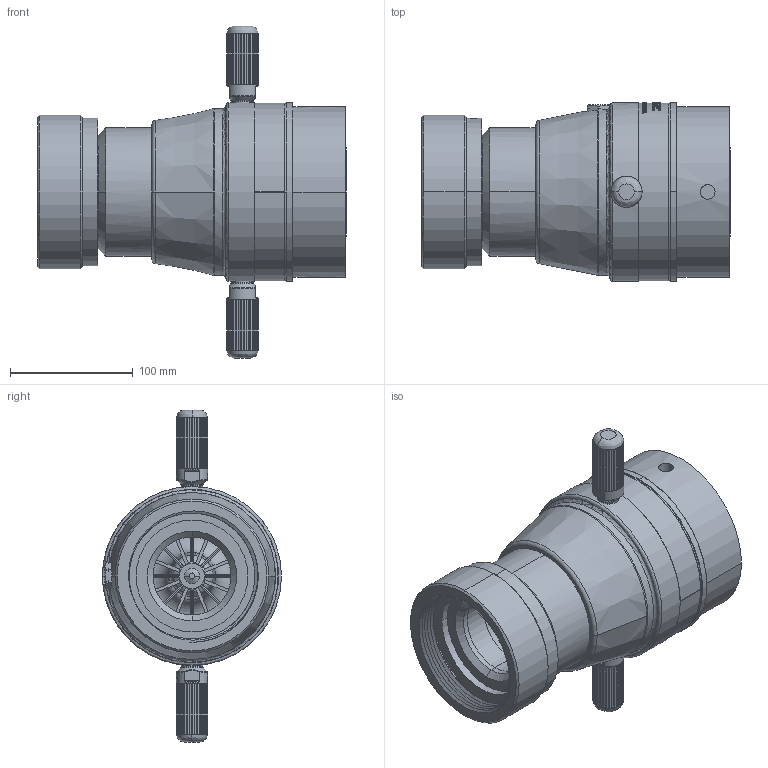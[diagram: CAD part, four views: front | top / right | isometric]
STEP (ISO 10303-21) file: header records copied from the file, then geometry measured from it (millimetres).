
FILE_DESCRIPTION((''),'2;1');
FILE_NAME('5160_3_5_SWVL_11','2019-08-12T',('sobrien2'),(''),'CREO PARAMETRIC BY PTC INC, 2015290','CREO PARAMETRIC BY PTC INC, 2015290','');
FILE_SCHEMA(('CONFIG_CONTROL_DESIGN'));
Length unit declared in the file: inch
Products named in the file (1): 5160_3_5_SWVL_11
Bounding box: 252.18 x 146.05 x 271.02 mm (x, y, z)
Surface area: 362274.2 mm2 (no closed solid volume)
Topology: 0 solids, 43 shells, 800 faces, 3226 edges, 2438 vertices
Faces by surface type: cylinder 349, plane 176, torus 121, cone 82, bspline 72
Entity records: 45422 total; most frequent: CARTESIAN_POINT 19397, DIRECTION 5552, ORIENTED_EDGE 4839, EDGE_CURVE 3226, VERTEX_POINT 2438, AXIS2_PLACEMENT_3D 2262, CIRCLE 1534, VECTOR 1028
